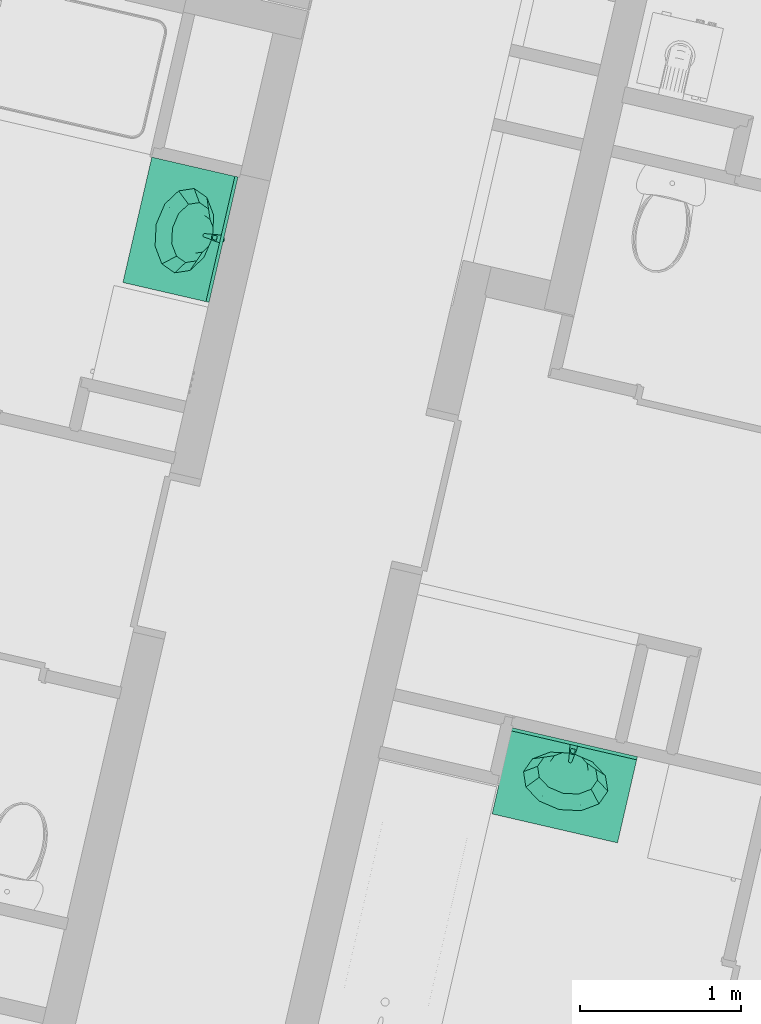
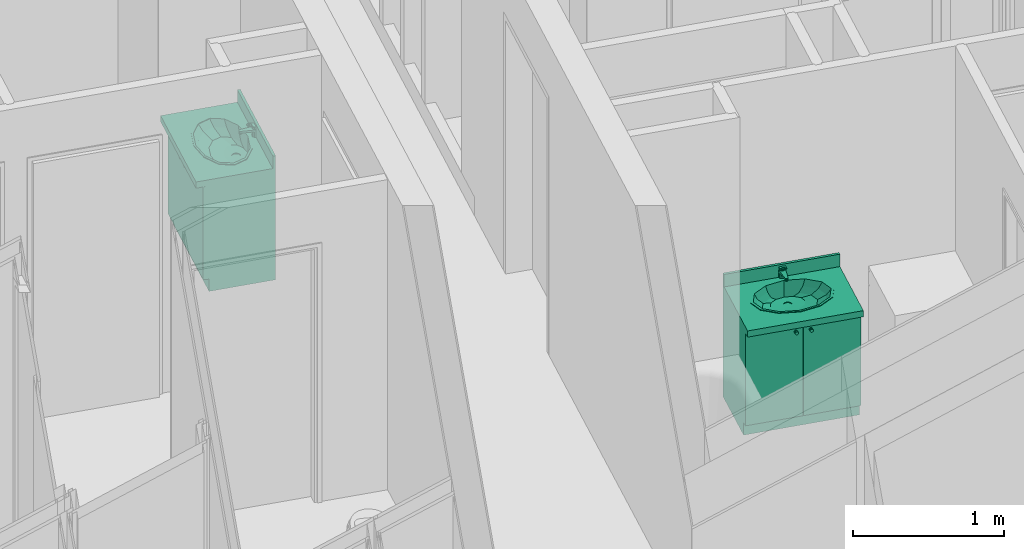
# One storey, part 75 of 91: 2 flow terminals.
"""IFC2X3 building model written with IfcOpenShell, lengths in metres."""

from ifc_helpers import new_model, entity, si_unit, converted_unit, derived_unit, money_unit, direction, frame, origin_with_axes, place, context, subcontext, project, spatial, open_shell, faceted_brep, surface_model, source, transform, mapped, type_object, element, save


model = new_model("IFC2X3")

# Units and contexts
model_context = context("Model", 3, precision=1e-05, world=origin_with_axes(), true_north=direction((0.0, 1.0)))
body_context = subcontext(model_context, "Body", "Model", "MODEL_VIEW")
ifc_project = project(units=[si_unit("LENGTHUNIT", "METRE"), si_unit("AREAUNIT", "SQUARE_METRE"), si_unit("VOLUMEUNIT", "CUBIC_METRE"), converted_unit("PLANEANGLEUNIT", "DEGREE", entity("IfcPlaneAngleMeasure", 0.0174532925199), si_unit("PLANEANGLEUNIT", "RADIAN"), dimensions=[0, 0, 0, 0, 0, 0, 0]), si_unit("SOLIDANGLEUNIT", "STERADIAN"), money_unit("EUR"), converted_unit("TIMEUNIT", "Year", entity("IfcTimeMeasure", 31556926.0), si_unit("TIMEUNIT", "SECOND"), dimensions=[0, 0, 1, 0, 0, 0, 0]), si_unit("MASSUNIT", "GRAM", prefix="KILO"), si_unit("THERMODYNAMICTEMPERATUREUNIT", "DEGREE_CELSIUS"), si_unit("LUMINOUSINTENSITYUNIT", "LUMEN"), si_unit("ENERGYUNIT", "JOULE", prefix="MEGA"), derived_unit("THERMALCONDUCTANCEUNIT", [(si_unit("POWERUNIT", "WATT"), 1), (si_unit("LENGTHUNIT", "METRE"), -1), (si_unit("THERMODYNAMICTEMPERATUREUNIT", "KELVIN"), -1)]), derived_unit("SPECIFICHEATCAPACITYUNIT", [(si_unit("ENERGYUNIT", "JOULE"), 1), (si_unit("MASSUNIT", "GRAM", prefix="KILO"), -1), (si_unit("THERMODYNAMICTEMPERATUREUNIT", "KELVIN"), -1)]), derived_unit("MASSDENSITYUNIT", [(si_unit("MASSUNIT", "GRAM", prefix="KILO"), 1), (si_unit("VOLUMEUNIT", "CUBIC_METRE"), -1)])], contexts=[model_context])

# Site, building, storey
site_placement = place(None, origin_with_axes())
site = spatial("IfcSite", under=ifc_project, at=site_placement, Name="Site", CompositionType="ELEMENT")
building_placement = place(site_placement, origin_with_axes())
building = spatial("IfcBuilding", under=site, at=building_placement, Name="Bâtiment", CompositionType="ELEMENT")
storey_placement = place(building_placement, frame((0.0, 0.0, 5.44), z_axis=(0.0, 0.0, 1.0), x_axis=(1.0, 0.0, 0.0)))
storey = spatial("IfcBuildingStorey", under=building, at=storey_placement, Name="R+2", CompositionType="ELEMENT", Elevation=5.44)

# Flow terminals
sanitary_terminal_type = type_object("IfcSanitaryTerminalType", Name="Lavabo sur meuble 23", PredefinedType="NOTDEFINED")
shared_shape = source(origin_with_axes(), body_context, "Body", "SurfaceModel", [
    faceted_brep([(0.0, 0.09, 0.0), (0.0, 0.09, 0.1), (-0.8, 0.09, 0.1), (-0.8, 0.09, 0.0), (0.0, 0.55, 0.0), (0.0, 0.55, 0.1), (-0.8, 0.55, 0.1), (-0.8, 0.55, 0.0)], [[[0, 1, 2, 3]], [[4, 5, 1, 0]], [[1, 5, 6, 2]], [[3, 2, 6, 7]], [[0, 3, 7, 4]], [[7, 6, 5, 4]]]),
    faceted_brep([(0.0, 0.07, 0.1), (0.0, 0.07, 0.12), (-0.02, 0.07, 0.12), (-0.02, 0.07, 0.1), (0.0, 0.55, 0.1), (0.0, 0.55, 0.12), (-0.02, 0.55, 0.12), (-0.78, 0.55, 0.12), (-0.8, 0.55, 0.12), (-0.8, 0.07, 0.12), (-0.78, 0.07, 0.12), (-0.78, 0.07, 0.1), (-0.8, 0.07, 0.1), (-0.8, 0.55, 0.1), (-0.78, 0.55, 0.1), (-0.02, 0.55, 0.1)], [[[0, 1, 2, 3]], [[4, 5, 1, 0]], [[1, 5, 6, 7, 8, 9, 10, 2]], [[3, 2, 10, 11]], [[0, 3, 11, 12, 13, 14, 15, 4]], [[15, 6, 5, 4]], [[14, 7, 6, 15]], [[13, 8, 7, 14]], [[12, 9, 8, 13]], [[11, 10, 9, 12]]]),
    faceted_brep([(0.0, 0.07, 0.12), (0.0, 0.07, 0.85), (-0.02, 0.07, 0.85), (-0.02, 0.07, 0.12), (0.0, 0.55, 0.12), (0.0, 0.55, 0.85), (-0.8, 0.55, 0.85), (-0.8, 0.07, 0.85), (-0.78, 0.07, 0.85), (-0.78, 0.53, 0.85), (-0.02, 0.53, 0.85), (-0.02, 0.53, 0.12), (-0.78, 0.53, 0.12), (-0.78, 0.07, 0.12), (-0.8, 0.07, 0.12), (-0.8, 0.55, 0.12)], [[[0, 1, 2, 3]], [[4, 5, 1, 0]], [[1, 5, 6, 7, 8, 9, 10, 2]], [[3, 2, 10, 11]], [[0, 3, 11, 12, 13, 14, 15, 4]], [[15, 6, 5, 4]], [[14, 7, 6, 15]], [[13, 8, 7, 14]], [[12, 9, 8, 13]], [[11, 10, 9, 12]]]),
    faceted_brep([(-0.78, 0.07, 0.323333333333), (-0.78, 0.07, 0.343333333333), (-0.78, 0.53, 0.343333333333), (-0.78, 0.53, 0.323333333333), (-0.02, 0.07, 0.323333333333), (-0.02, 0.07, 0.343333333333), (-0.02, 0.53, 0.343333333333), (-0.02, 0.53, 0.323333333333)], [[[0, 1, 2, 3]], [[4, 5, 1, 0]], [[1, 5, 6, 2]], [[3, 2, 6, 7]], [[0, 3, 7, 4]], [[7, 6, 5, 4]]]),
    faceted_brep([(-0.78, 0.07, 0.566666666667), (-0.78, 0.07, 0.586666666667), (-0.78, 0.53, 0.586666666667), (-0.78, 0.53, 0.566666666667), (-0.02, 0.07, 0.566666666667), (-0.02, 0.07, 0.586666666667), (-0.02, 0.53, 0.586666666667), (-0.02, 0.53, 0.566666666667)], [[[0, 1, 2, 3]], [[4, 5, 1, 0]], [[1, 5, 6, 2]], [[3, 2, 6, 7]], [[0, 3, 7, 4]], [[7, 6, 5, 4]]]),
    faceted_brep([(0.0, 0.55, 0.85), (0.0, 0.0, 0.85), (-0.8, 0.0, 0.85), (-0.8, 0.55, 0.85), (-0.535, 0.144115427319, 0.85), (-0.4, 0.12, 0.85), (-0.265, 0.144115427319, 0.85), (-0.166173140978, 0.21, 0.85), (-0.13, 0.3, 0.85), (-0.166173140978, 0.39, 0.85), (-0.265, 0.455884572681, 0.85), (-0.4, 0.48, 0.85), (-0.535, 0.455884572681, 0.85), (-0.633826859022, 0.39, 0.85), (-0.67, 0.3, 0.85), (-0.633826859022, 0.21, 0.85), (0.0, 0.55, 0.9), (0.0, 0.0, 0.9), (-0.8, 0.0, 0.9), (-0.8, 0.55, 0.9), (-0.4, 0.12, 0.9), (-0.535, 0.144115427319, 0.9), (-0.265, 0.144115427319, 0.9), (-0.166173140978, 0.21, 0.9), (-0.13, 0.3, 0.9), (-0.166173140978, 0.39, 0.9), (-0.265, 0.455884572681, 0.9), (-0.4, 0.48, 0.9), (-0.535, 0.455884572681, 0.9), (-0.633826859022, 0.39, 0.9), (-0.67, 0.3, 0.9), (-0.633826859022, 0.21, 0.9)], [[[0, 1, 2, 3], [4, 5, 6, 7, 8, 9, 10, 11, 12, 13, 14, 15]], [[1, 0, 16, 17]], [[2, 1, 17, 18]], [[3, 2, 18, 19]], [[0, 3, 19, 16]], [[20, 5, 4, 21]], [[22, 6, 5, 20]], [[23, 7, 6, 22]], [[24, 8, 7, 23]], [[25, 9, 8, 24]], [[26, 10, 9, 25]], [[27, 11, 10, 26]], [[28, 12, 11, 27]], [[29, 13, 12, 28]], [[30, 14, 13, 29]], [[31, 15, 14, 30]], [[21, 4, 15, 31]], [[18, 17, 16, 19], [28, 27, 26, 25, 24, 23, 22, 20, 21, 31, 30, 29]]]),
    faceted_brep([(0.0, 0.53, 0.9), (0.0, 0.53, 1.0), (-0.8, 0.53, 1.0), (-0.8, 0.53, 0.9), (0.0, 0.55, 0.9), (0.0, 0.55, 1.0), (-0.8, 0.55, 1.0), (-0.8, 0.55, 0.9)], [[[0, 1, 2, 3]], [[4, 5, 1, 0]], [[1, 5, 6, 2]], [[3, 2, 6, 7]], [[0, 3, 7, 4]], [[7, 6, 5, 4]]]),
    faceted_brep([(-0.689, 0.3, 0.905), (-0.650281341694, 0.396691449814, 0.905), (-0.650281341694, 0.396691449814, 0.9), (-0.689, 0.3, 0.9), (-0.650281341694, 0.203308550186, 0.905), (-0.5445, 0.132525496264, 0.905), (-0.4, 0.106617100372, 0.905), (-0.2555, 0.132525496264, 0.905), (-0.149718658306, 0.203308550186, 0.905), (-0.111, 0.3, 0.905), (-0.149718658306, 0.396691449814, 0.905), (-0.2555, 0.467474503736, 0.905), (-0.4, 0.493382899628, 0.905), (-0.5445, 0.467474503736, 0.905), (-0.669, 0.3, 0.905), (-0.632960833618, 0.39, 0.905), (-0.5345, 0.455884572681, 0.905), (-0.4, 0.48, 0.905), (-0.2655, 0.455884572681, 0.905), (-0.167039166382, 0.39, 0.905), (-0.131, 0.3, 0.905), (-0.167039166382, 0.21, 0.905), (-0.2655, 0.144115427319, 0.905), (-0.4, 0.12, 0.905), (-0.5345, 0.144115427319, 0.905), (-0.632960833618, 0.21, 0.905), (-0.5445, 0.467474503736, 0.9), (-0.4, 0.493382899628, 0.9), (-0.2555, 0.467474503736, 0.9), (-0.149718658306, 0.396691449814, 0.9), (-0.111, 0.3, 0.9), (-0.149718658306, 0.203308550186, 0.9), (-0.2555, 0.132525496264, 0.9), (-0.4, 0.106617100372, 0.9), (-0.5445, 0.132525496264, 0.9), (-0.650281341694, 0.203308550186, 0.9), (-0.669, 0.3, 0.9), (-0.632960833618, 0.21, 0.9), (-0.5345, 0.144115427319, 0.9), (-0.4, 0.12, 0.9), (-0.2655, 0.144115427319, 0.9), (-0.167039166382, 0.21, 0.9), (-0.131, 0.3, 0.9), (-0.167039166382, 0.39, 0.9), (-0.2655, 0.455884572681, 0.9), (-0.4, 0.48, 0.9), (-0.5345, 0.455884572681, 0.9), (-0.632960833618, 0.39, 0.9)], [[[0, 1, 2, 3]], [[0, 4, 5, 6, 7, 8, 9, 10, 11, 12, 13, 1], [14, 15, 16, 17, 18, 19, 20, 21, 22, 23, 24, 25]], [[1, 13, 26, 2]], [[3, 2, 26, 27, 28, 29, 30, 31, 32, 33, 34, 35], [36, 37, 38, 39, 40, 41, 42, 43, 44, 45, 46, 47]], [[4, 0, 3, 35]], [[5, 4, 35, 34]], [[6, 5, 34, 33]], [[7, 6, 33, 32]], [[8, 7, 32, 31]], [[9, 8, 31, 30]], [[10, 9, 30, 29]], [[11, 10, 29, 28]], [[12, 11, 28, 27]], [[13, 12, 27, 26]], [[15, 14, 36, 47]], [[16, 15, 47, 46]], [[17, 16, 46, 45]], [[18, 17, 45, 44]], [[19, 18, 44, 43]], [[20, 19, 43, 42]], [[21, 20, 42, 41]], [[22, 21, 41, 40]], [[23, 22, 40, 39]], [[24, 23, 39, 38]], [[25, 24, 38, 37]], [[14, 25, 37, 36]]]),
    surface_model("IfcShellBasedSurfaceModel", [(-0.4, 0.48, 0.9), (-0.5345, 0.455884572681, 0.9), (-0.52105, 0.458296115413, 0.848), (-0.4, 0.48, 0.848), (-0.632960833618, 0.39, 0.9), (-0.609664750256, 0.399, 0.848), (-0.2655, 0.455884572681, 0.9), (-0.27895, 0.458296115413, 0.848), (-0.669, 0.3, 0.9), (-0.6421, 0.318, 0.848), (-0.167039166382, 0.39, 0.9), (-0.190335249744, 0.399, 0.848), (-0.632960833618, 0.21, 0.9), (-0.609664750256, 0.237, 0.848), (-0.131, 0.3, 0.9), (-0.1579, 0.318, 0.848), (-0.5345, 0.144115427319, 0.9), (-0.52105, 0.177703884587, 0.848), (-0.167039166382, 0.21, 0.9), (-0.190335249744, 0.237, 0.848), (-0.4, 0.12, 0.9), (-0.4, 0.156, 0.848), (-0.2655, 0.144115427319, 0.9), (-0.27895, 0.177703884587, 0.848)], [open_shell([[[0, 1, 2, 3]], [[1, 4, 5, 2]], [[6, 0, 3, 7]], [[4, 8, 9, 5]], [[10, 6, 7, 11]], [[8, 12, 13, 9]], [[14, 10, 11, 15]], [[12, 16, 17, 13]], [[18, 14, 15, 19]], [[16, 20, 21, 17]], [[22, 18, 19, 23]], [[20, 22, 23, 21]]])]),
    surface_model("IfcShellBasedSurfaceModel", [(-0.4, 0.48, 0.848), (-0.52105, 0.458296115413, 0.848), (-0.4956295, 0.462853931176, 0.796), (-0.4, 0.48, 0.796), (-0.609664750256, 0.399, 0.848), (-0.565635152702, 0.41601, 0.796), (-0.27895, 0.458296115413, 0.848), (-0.3043705, 0.462853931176, 0.796), (-0.6421, 0.318, 0.848), (-0.591259, 0.35202, 0.796), (-0.190335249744, 0.399, 0.848), (-0.234364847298, 0.41601, 0.796), (-0.609664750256, 0.237, 0.848), (-0.565635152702, 0.28803, 0.796), (-0.1579, 0.318, 0.848), (-0.208741, 0.35202, 0.796), (-0.52105, 0.177703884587, 0.848), (-0.4956295, 0.241186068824, 0.796), (-0.190335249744, 0.237, 0.848), (-0.234364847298, 0.28803, 0.796), (-0.4, 0.156, 0.848), (-0.4, 0.22404, 0.796), (-0.27895, 0.177703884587, 0.848), (-0.3043705, 0.241186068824, 0.796)], [open_shell([[[0, 1, 2, 3]], [[1, 4, 5, 2]], [[6, 0, 3, 7]], [[4, 8, 9, 5]], [[10, 6, 7, 11]], [[8, 12, 13, 9]], [[14, 10, 11, 15]], [[12, 16, 17, 13]], [[18, 14, 15, 19]], [[16, 20, 21, 17]], [[22, 18, 19, 23]], [[20, 22, 23, 21]]])]),
    surface_model("IfcShellBasedSurfaceModel", [(-0.4, 0.48, 0.796), (-0.4956295, 0.462853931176, 0.796), (-0.460246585, 0.469197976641, 0.77), (-0.4, 0.48, 0.77), (-0.565635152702, 0.41601, 0.796), (-0.504350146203, 0.4396863, 0.77), (-0.3043705, 0.462853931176, 0.796), (-0.339753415, 0.469197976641, 0.77), (-0.591259, 0.35202, 0.796), (-0.52049317, 0.3993726, 0.77), (-0.234364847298, 0.41601, 0.796), (-0.295649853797, 0.4396863, 0.77), (-0.565635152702, 0.28803, 0.796), (-0.504350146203, 0.3590589, 0.77), (-0.208741, 0.35202, 0.796), (-0.27950683, 0.3993726, 0.77), (-0.4956295, 0.241186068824, 0.796), (-0.460246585, 0.329547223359, 0.77), (-0.234364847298, 0.28803, 0.796), (-0.295649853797, 0.3590589, 0.77), (-0.4, 0.22404, 0.796), (-0.4, 0.3187452, 0.77), (-0.3043705, 0.241186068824, 0.796), (-0.339753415, 0.329547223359, 0.77)], [open_shell([[[0, 1, 2, 3]], [[1, 4, 5, 2]], [[6, 0, 3, 7]], [[4, 8, 9, 5]], [[10, 6, 7, 11]], [[8, 12, 13, 9]], [[14, 10, 11, 15]], [[12, 16, 17, 13]], [[18, 14, 15, 19]], [[16, 20, 21, 17]], [[22, 18, 19, 23]], [[20, 22, 23, 21]]])]),
    surface_model("IfcShellBasedSurfaceModel", [(-0.4, 0.48, 0.77), (-0.460246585, 0.469197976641, 0.77), (-0.415, 0.425353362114, 0.763), (-0.425980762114, 0.4143726, 0.763), (-0.4, 0.4293726, 0.763), (-0.504350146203, 0.4396863, 0.77), (-0.339753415, 0.469197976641, 0.77), (-0.43, 0.3993726, 0.763), (-0.385, 0.425353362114, 0.763), (-0.52049317, 0.3993726, 0.77), (-0.295649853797, 0.4396863, 0.77), (-0.425980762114, 0.3843726, 0.763), (-0.374019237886, 0.4143726, 0.763), (-0.504350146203, 0.3590589, 0.77), (-0.27950683, 0.3993726, 0.77), (-0.415, 0.373391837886, 0.763), (-0.37, 0.3993726, 0.763), (-0.460246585, 0.329547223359, 0.77), (-0.295649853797, 0.3590589, 0.77), (-0.4, 0.3693726, 0.763), (-0.374019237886, 0.3843726, 0.763), (-0.4, 0.3187452, 0.77), (-0.339753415, 0.329547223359, 0.77), (-0.385, 0.373391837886, 0.763)], [open_shell([[[0, 1, 2]], [[1, 3, 2]], [[0, 2, 4]], [[1, 5, 3]], [[6, 0, 4]], [[5, 7, 3]], [[6, 4, 8]], [[5, 9, 7]], [[10, 6, 8]], [[9, 11, 7]], [[10, 8, 12]], [[9, 13, 11]], [[14, 10, 12]], [[13, 15, 11]], [[14, 12, 16]], [[13, 17, 15]], [[18, 14, 16]], [[17, 19, 15]], [[18, 16, 20]], [[17, 21, 19]], [[22, 18, 20]], [[21, 23, 19]], [[22, 20, 23]], [[21, 22, 23]]])]),
    surface_model("IfcShellBasedSurfaceModel", [(-0.43, 0.3993726, 0.763), (-0.425980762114, 0.4143726, 0.763), (-0.425980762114, 0.4143726, 0.758), (-0.43, 0.3993726, 0.758), (-0.415, 0.425353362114, 0.763), (-0.415, 0.425353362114, 0.758), (-0.4, 0.4293726, 0.758), (-0.385, 0.425353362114, 0.758), (-0.374019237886, 0.4143726, 0.758), (-0.37, 0.3993726, 0.758), (-0.374019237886, 0.3843726, 0.758), (-0.385, 0.373391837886, 0.758), (-0.4, 0.3693726, 0.758), (-0.415, 0.373391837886, 0.758), (-0.425980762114, 0.3843726, 0.758), (-0.425980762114, 0.3843726, 0.763), (-0.4, 0.4293726, 0.763), (-0.385, 0.425353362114, 0.763), (-0.374019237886, 0.4143726, 0.763), (-0.37, 0.3993726, 0.763), (-0.374019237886, 0.3843726, 0.763), (-0.385, 0.373391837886, 0.763), (-0.4, 0.3693726, 0.763), (-0.415, 0.373391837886, 0.763)], [open_shell([[[0, 1, 2, 3]], [[1, 4, 5, 2]], [[3, 2, 5, 6, 7, 8, 9, 10, 11, 12, 13, 14]], [[15, 0, 3, 14]], [[4, 16, 6, 5]], [[16, 17, 7, 6]], [[17, 18, 8, 7]], [[18, 19, 9, 8]], [[19, 20, 10, 9]], [[20, 21, 11, 10]], [[21, 22, 12, 11]], [[22, 23, 13, 12]], [[23, 15, 14, 13]]])]),
    faceted_brep([(-0.4125, 0.554150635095, 0.9), (-0.410587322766, 0.550837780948, 0.976507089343), (-0.4, 0.553701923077, 0.975961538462), (-0.4, 0.5575, 0.9), (-0.421650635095, 0.545, 0.9), (-0.418273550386, 0.543050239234, 0.977990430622), (-0.421, 0.5325, 0.98), (-0.418100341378, 0.522049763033, 0.981990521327), (-0.410414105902, 0.514462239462, 0.983435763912), (-0.4, 0.511698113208, 0.983962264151), (-0.389585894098, 0.514462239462, 0.983435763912), (-0.381899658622, 0.522049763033, 0.981990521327), (-0.379, 0.5325, 0.98), (-0.381726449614, 0.543050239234, 0.977990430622), (-0.389412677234, 0.550837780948, 0.976507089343), (-0.3875, 0.554150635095, 0.9), (-0.378349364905, 0.545, 0.9), (-0.375, 0.5325, 0.9), (-0.378349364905, 0.52, 0.9), (-0.3875, 0.510849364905, 0.9), (-0.4, 0.5075, 0.9), (-0.4125, 0.510849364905, 0.9), (-0.421650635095, 0.52, 0.9), (-0.425, 0.5325, 0.9)], [[[0, 1, 2, 3]], [[4, 5, 1, 0]], [[1, 5, 6, 7, 8, 9, 10, 11, 12, 13, 14, 2]], [[3, 2, 14, 15]], [[0, 3, 15, 16, 17, 18, 19, 20, 21, 22, 23, 4]], [[23, 6, 5, 4]], [[22, 7, 6, 23]], [[21, 8, 7, 22]], [[20, 9, 8, 21]], [[19, 10, 9, 20]], [[18, 11, 10, 19]], [[17, 12, 11, 18]], [[16, 13, 12, 17]], [[15, 14, 13, 16]]]),
    faceted_brep([(-0.409, 0.4295, 0.935), (-0.409, 0.4295, 0.945), (-0.407794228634, 0.434, 0.945), (-0.407794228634, 0.434, 0.935), (-0.407794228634, 0.425, 0.935), (-0.407794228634, 0.425, 0.945), (-0.4045, 0.421705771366, 0.945), (-0.4, 0.4205, 0.945), (-0.3955, 0.421705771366, 0.945), (-0.392205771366, 0.425, 0.945), (-0.391, 0.4295, 0.945), (-0.392205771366, 0.434, 0.945), (-0.3955, 0.437294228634, 0.945), (-0.4, 0.4385, 0.945), (-0.4045, 0.437294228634, 0.945), (-0.4045, 0.437294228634, 0.935), (-0.4, 0.4385, 0.935), (-0.3955, 0.437294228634, 0.935), (-0.392205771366, 0.434, 0.935), (-0.391, 0.4295, 0.935), (-0.392205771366, 0.425, 0.935), (-0.3955, 0.421705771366, 0.935), (-0.4, 0.4205, 0.935), (-0.4045, 0.421705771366, 0.935)], [[[0, 1, 2, 3]], [[4, 5, 1, 0]], [[1, 5, 6, 7, 8, 9, 10, 11, 12, 13, 14, 2]], [[3, 2, 14, 15]], [[0, 3, 15, 16, 17, 18, 19, 20, 21, 22, 23, 4]], [[23, 6, 5, 4]], [[22, 7, 6, 23]], [[21, 8, 7, 22]], [[20, 9, 8, 21]], [[19, 10, 9, 20]], [[18, 11, 10, 19]], [[17, 12, 11, 18]], [[16, 13, 12, 17]], [[15, 14, 13, 16]]]),
    faceted_brep([(-0.387128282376, 0.552756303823, 0.96), (-0.40000000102, 0.556499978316, 0.96), (-0.412871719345, 0.552756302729, 0.96), (-0.421727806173, 0.542693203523, 0.96), (-0.423805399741, 0.529450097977, 0.96), (-0.410912, 0.4281117, 0.96), (-0.409028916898, 0.423216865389, 0.96), (-0.405093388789, 0.419750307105, 0.96), (-0.400000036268, 0.41850003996, 0.96), (-0.394906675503, 0.419750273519, 0.96), (-0.390971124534, 0.423216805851, 0.96), (-0.389088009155, 0.428111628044, 0.96), (-0.3761946, 0.5294501, 0.96), (-0.378272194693, 0.54269320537, 0.96), (-0.411, 0.551552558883, 0.96), (-0.4, 0.5545, 0.96), (-0.389, 0.551552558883, 0.96), (-0.380947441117, 0.5435, 0.96), (-0.378, 0.5325, 0.96), (-0.380947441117, 0.5215, 0.96), (-0.389, 0.513447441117, 0.96), (-0.4, 0.5105, 0.96), (-0.411, 0.513447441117, 0.96), (-0.419052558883, 0.5215, 0.96), (-0.422, 0.5325, 0.96), (-0.419052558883, 0.5435, 0.96), (-0.387128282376, 0.552756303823, 0.945), (-0.40000000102, 0.556499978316, 0.945), (-0.412871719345, 0.552756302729, 0.945), (-0.421727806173, 0.542693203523, 0.945), (-0.423805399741, 0.529450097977, 0.945), (-0.410912, 0.4281117, 0.945), (-0.409028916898, 0.423216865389, 0.945), (-0.405093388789, 0.419750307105, 0.945), (-0.400000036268, 0.41850003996, 0.945), (-0.394906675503, 0.419750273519, 0.945), (-0.390971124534, 0.423216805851, 0.945), (-0.389088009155, 0.428111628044, 0.945), (-0.3761946, 0.5294501, 0.945), (-0.378272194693, 0.54269320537, 0.945), (-0.4, 0.55525, 0.945), (-0.411375, 0.552202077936, 0.945), (-0.388625, 0.552202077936, 0.945), (-0.380297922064, 0.543875, 0.945), (-0.37725, 0.5325, 0.945), (-0.380297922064, 0.521125, 0.945), (-0.388625, 0.512797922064, 0.945), (-0.4, 0.50975, 0.945), (-0.411375, 0.512797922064, 0.945), (-0.419702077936, 0.521125, 0.945), (-0.42275, 0.5325, 0.945), (-0.419702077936, 0.543875, 0.945)], [[[0, 1, 2, 3, 4, 5, 6, 7, 8, 9, 10, 11, 12, 13], [14, 15, 16, 17, 18, 19, 20, 21, 22, 23, 24, 25]], [[26, 27, 1, 0]], [[27, 28, 2, 1]], [[28, 29, 3, 2]], [[29, 30, 4, 3]], [[30, 31, 5, 4]], [[31, 32, 6, 5]], [[32, 33, 7, 6]], [[33, 34, 8, 7]], [[34, 35, 9, 8]], [[35, 36, 10, 9]], [[36, 37, 11, 10]], [[37, 38, 12, 11]], [[38, 39, 13, 12]], [[39, 26, 0, 13]], [[40, 15, 14, 41]], [[42, 16, 15, 40]], [[16, 42, 43, 17]], [[17, 43, 44, 18]], [[18, 44, 45, 19]], [[19, 45, 46, 20]], [[20, 46, 47, 21]], [[48, 22, 21, 47]], [[49, 23, 22, 48]], [[50, 24, 23, 49]], [[51, 25, 24, 50]], [[41, 14, 25, 51]], [[34, 33, 32, 31, 30, 29, 28, 27, 26, 39, 38, 37, 36, 35], [48, 47, 46, 45, 44, 43, 42, 40, 41, 51, 50, 49]]]),
    faceted_brep([(-0.423893, 0.53080743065, 0.980322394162), (-0.423893, 0.531555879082, 0.984251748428), (-0.421296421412, 0.544023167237, 0.981877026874), (-0.421296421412, 0.543274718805, 0.977947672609), (-0.420945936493, 0.490663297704, 0.987968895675), (-0.420945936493, 0.491411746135, 0.991898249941), (-0.417663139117, 0.48173408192, 0.993741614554), (-0.410061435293, 0.47478470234, 0.995065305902), (-0.399999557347, 0.472262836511, 0.995545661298), (-0.389937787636, 0.474785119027, 0.995065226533), (-0.382336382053, 0.481734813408, 0.993741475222), (-0.379054, 0.491412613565, 0.991898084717), (-0.376106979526, 0.531556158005, 0.984251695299), (-0.378703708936, 0.544023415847, 0.98187697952), (-0.38752831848, 0.553339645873, 0.980102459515), (-0.400000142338, 0.556780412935, 0.979447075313), (-0.41247192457, 0.553339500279, 0.980102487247), (-0.414, 0.507707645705, 0.988794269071), (-0.386, 0.507707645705, 0.988794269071), (-0.386, 0.492892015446, 0.991616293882), (-0.387875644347, 0.486015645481, 0.992926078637), (-0.393, 0.480981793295, 0.993884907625), (-0.4, 0.479139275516, 0.994235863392), (-0.407, 0.480981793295, 0.993884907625), (-0.412124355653, 0.486015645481, 0.992926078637), (-0.414, 0.492892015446, 0.991616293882), (-0.41247192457, 0.552591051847, 0.976173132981), (-0.400000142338, 0.556031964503, 0.975517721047), (-0.38752831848, 0.552591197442, 0.976173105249), (-0.378703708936, 0.543274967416, 0.977947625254), (-0.376106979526, 0.530807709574, 0.980322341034), (-0.379054, 0.490664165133, 0.987968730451), (-0.382336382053, 0.480986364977, 0.989812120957), (-0.389937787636, 0.474036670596, 0.991135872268), (-0.399999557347, 0.47151438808, 0.991616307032), (-0.410061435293, 0.474036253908, 0.991135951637), (-0.417663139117, 0.480985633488, 0.989812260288), (-0.414, 0.506959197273, 0.984864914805), (-0.414, 0.492143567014, 0.987686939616), (-0.412124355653, 0.485267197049, 0.988996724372), (-0.407, 0.480233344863, 0.989955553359), (-0.4, 0.478390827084, 0.990306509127), (-0.393, 0.480233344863, 0.989955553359), (-0.387875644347, 0.485267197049, 0.988996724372), (-0.386, 0.492143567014, 0.987686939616), (-0.386, 0.506959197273, 0.984864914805)], [[[0, 1, 2, 3]], [[4, 5, 1, 0]], [[1, 5, 6, 7, 8, 9, 10, 11, 12, 13, 14, 15, 16, 2], [17, 18, 19, 20, 21, 22, 23, 24, 25]], [[3, 2, 16, 26]], [[0, 3, 26, 27, 28, 29, 30, 31, 32, 33, 34, 35, 36, 4], [37, 38, 39, 40, 41, 42, 43, 44, 45]], [[36, 6, 5, 4]], [[35, 7, 6, 36]], [[34, 8, 7, 35]], [[33, 9, 8, 34]], [[32, 10, 9, 33]], [[31, 11, 10, 32]], [[30, 12, 11, 31]], [[29, 13, 12, 30]], [[28, 14, 13, 29]], [[27, 15, 14, 28]], [[26, 16, 15, 27]], [[45, 18, 17, 37]], [[44, 19, 18, 45]], [[43, 20, 19, 44]], [[42, 21, 20, 43]], [[41, 22, 21, 42]], [[40, 23, 22, 41]], [[39, 24, 23, 40]], [[38, 25, 24, 39]], [[37, 17, 25, 38]]]),
    faceted_brep([(-0.0015, 0.07, 0.1015), (-0.0015, 0.05, 0.1015), (-0.3985, 0.05, 0.1015), (-0.3985, 0.07, 0.1015), (-0.0015, 0.07, 0.8485), (-0.0015, 0.05, 0.8485), (-0.3985, 0.05, 0.8485), (-0.3985, 0.07, 0.8485)], [[[0, 1, 2, 3]], [[4, 5, 1, 0]], [[1, 5, 6, 2]], [[3, 2, 6, 7]], [[0, 3, 7, 4]], [[7, 6, 5, 4]]]),
    faceted_brep([(-0.358892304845, 0.05, 0.7855), (-0.3605, 0.05, 0.7915), (-0.358892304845, 0.05, 0.7975), (-0.3545, 0.05, 0.801892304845), (-0.3485, 0.05, 0.8035), (-0.3425, 0.05, 0.801892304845), (-0.338107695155, 0.05, 0.7975), (-0.3365, 0.05, 0.7915), (-0.338107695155, 0.05, 0.7855), (-0.3425, 0.05, 0.781107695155), (-0.3485, 0.05, 0.7795), (-0.3545, 0.05, 0.781107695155), (-0.358892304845, 0.025, 0.7855), (-0.3605, 0.025, 0.7915), (-0.358892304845, 0.025, 0.7975), (-0.3545, 0.025, 0.801892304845), (-0.3485, 0.025, 0.8035), (-0.3425, 0.025, 0.801892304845), (-0.338107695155, 0.025, 0.7975), (-0.3365, 0.025, 0.7915), (-0.338107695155, 0.025, 0.7855), (-0.3425, 0.025, 0.781107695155), (-0.3485, 0.025, 0.7795), (-0.3545, 0.025, 0.781107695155)], [[[0, 1, 2, 3, 4, 5, 6, 7, 8, 9, 10, 11]], [[0, 12, 13, 1]], [[1, 13, 14, 2]], [[2, 14, 15, 3]], [[3, 15, 16, 4]], [[4, 16, 17, 5]], [[5, 17, 18, 6]], [[6, 18, 19, 7]], [[7, 19, 20, 8]], [[8, 20, 21, 9]], [[9, 21, 22, 10]], [[10, 22, 23, 11]], [[11, 23, 12, 0]], [[12, 23, 22, 21, 20, 19, 18, 17, 16, 15, 14, 13]]]),
    faceted_brep([(-0.7985, 0.07, 0.1015), (-0.4015, 0.07, 0.1015), (-0.4015, 0.05, 0.1015), (-0.7985, 0.05, 0.1015), (-0.7985, 0.07, 0.8485), (-0.4015, 0.07, 0.8485), (-0.4015, 0.05, 0.8485), (-0.7985, 0.05, 0.8485)], [[[0, 1, 2, 3]], [[0, 4, 5, 1]], [[1, 5, 6, 2]], [[3, 2, 6, 7]], [[4, 0, 3, 7]], [[5, 4, 7, 6]]]),
    faceted_brep([(-0.441107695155, 0.05, 0.7855), (-0.4455, 0.05, 0.781107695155), (-0.4515, 0.05, 0.7795), (-0.4575, 0.05, 0.781107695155), (-0.461892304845, 0.05, 0.7855), (-0.4635, 0.05, 0.7915), (-0.461892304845, 0.05, 0.7975), (-0.4575, 0.05, 0.801892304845), (-0.4515, 0.05, 0.8035), (-0.4455, 0.05, 0.801892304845), (-0.441107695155, 0.05, 0.7975), (-0.4395, 0.05, 0.7915), (-0.441107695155, 0.025, 0.7855), (-0.4455, 0.025, 0.781107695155), (-0.4515, 0.025, 0.7795), (-0.4575, 0.025, 0.781107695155), (-0.461892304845, 0.025, 0.7855), (-0.4635, 0.025, 0.7915), (-0.461892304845, 0.025, 0.7975), (-0.4575, 0.025, 0.801892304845), (-0.4515, 0.025, 0.8035), (-0.4455, 0.025, 0.801892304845), (-0.441107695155, 0.025, 0.7975), (-0.4395, 0.025, 0.7915)], [[[0, 1, 2, 3, 4, 5, 6, 7, 8, 9, 10, 11]], [[1, 0, 12, 13]], [[2, 1, 13, 14]], [[3, 2, 14, 15]], [[4, 3, 15, 16]], [[5, 4, 16, 17]], [[6, 5, 17, 18]], [[7, 6, 18, 19]], [[8, 7, 19, 20]], [[9, 8, 20, 21]], [[10, 9, 21, 22]], [[11, 10, 22, 23]], [[0, 11, 23, 12]], [[12, 23, 22, 21, 20, 19, 18, 17, 16, 15, 14, 13]]]),
])
for number, where, z_axis, x_axis, name in (
    (1, (-8.23424546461, -2.74172929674, 0.0), (0.0, 0.0, 1.0), (0.974387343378, -0.22487619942, 0.0), "MOB-002"),
    (2, (-11.309830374, 0.742763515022, 0.0), (0.0, 0.0, 1.0), (-0.224876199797, -0.974387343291, 0.0), "MOB-002"),
):
    element("IfcFlowTerminal", number, at=place(storey_placement, frame(where, z_axis=z_axis, x_axis=x_axis)), inside=storey, type_object=sanitary_terminal_type, Name=name, ObjectType="SANITARY_TERMINAL", context=body_context, shape_type="MappedRepresentation", body=[
        mapped(shared_shape, transform((0.0, 0.0, 0.0))),
    ])

save(model, "model.ifc")
